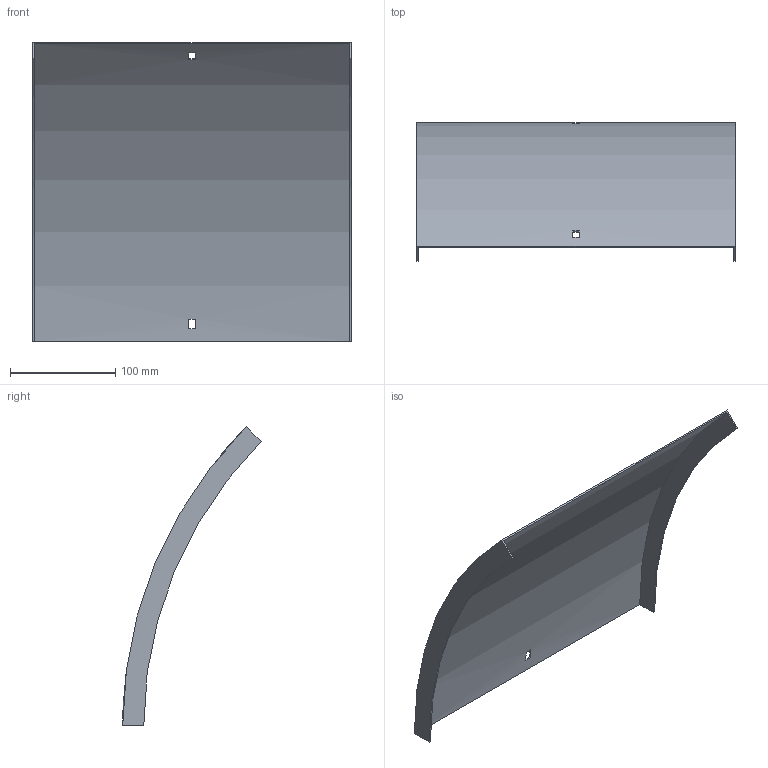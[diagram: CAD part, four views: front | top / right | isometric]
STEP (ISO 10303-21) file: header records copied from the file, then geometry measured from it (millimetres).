
FILE_DESCRIPTION (( 'STEP AP214' ), '1' );
FILE_NAME ('B2_34N3D300.step', '2025-02-21T10:36:27', ( '' ), ( '' ), 'SwSTEP 2.0', 'SolidWorks 2023', '' );
FILE_SCHEMA (( 'AUTOMOTIVE_DESIGN' ));
Length unit declared in the file: millimetre
Products named in the file (1): B2_34N3D300
Bounding box: 303 x 131.74 x 283.9 mm (x, y, z)
Volume: 159910.1 mm3; surface area: 215227.2 mm2
Topology: 1 solids, 1 shells, 18 faces, 48 edges, 32 vertices
Faces by surface type: plane 14, cylinder 4
Entity records: 599 total; most frequent: DIRECTION 102, CARTESIAN_POINT 99, ORIENTED_EDGE 96, EDGE_CURVE 48, AXIS2_PLACEMENT_3D 35, VECTOR 32, LINE 32, VERTEX_POINT 32
